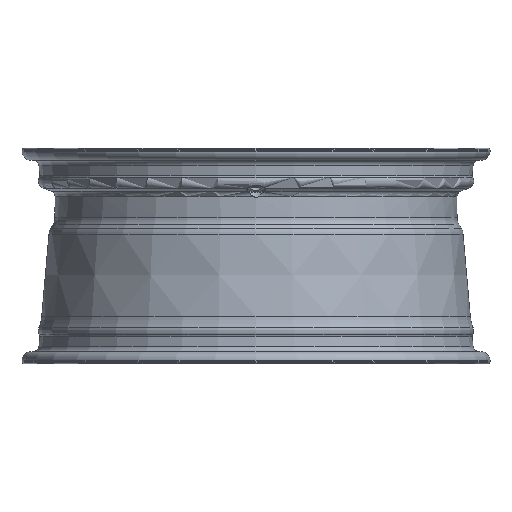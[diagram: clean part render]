
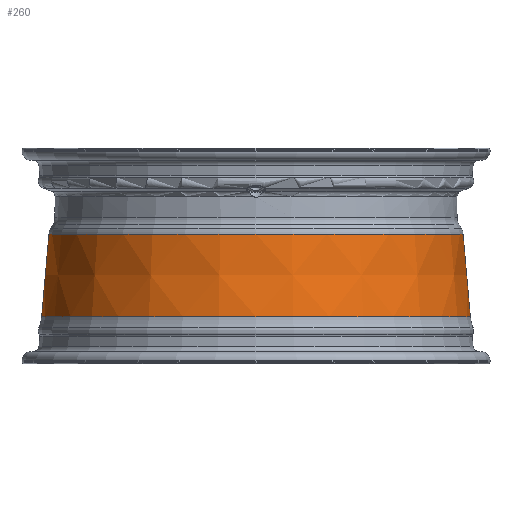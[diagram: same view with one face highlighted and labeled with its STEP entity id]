
A CAD part, front view. The second image highlights one B-rep face of the part: STEP entity #260.
In plain terms, the highlighted conical face has half-angle 5 degrees and reference radius 223.748 mm.
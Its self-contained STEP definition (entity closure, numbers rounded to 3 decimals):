
#260=ADVANCED_FACE('',(#1700,#1702),#1704,.T.);
#1700=FACE_BOUND('',#1701,.T.);
#1701=EDGE_LOOP('',(#3487,#3488));
#1702=FACE_BOUND('',#1703,.T.);
#1703=EDGE_LOOP('',(#3489,#3490));
#1704=CONICAL_SURFACE('',#1705,223.748,0.087);
#1705=AXIS2_PLACEMENT_3D('',#1706,#1707,#1708);
#1706=CARTESIAN_POINT('',(0.,0.,-20.511));
#1707=DIRECTION('',(0.,0.,-1.));
#1708=DIRECTION('',(-1.,0.,0.));
#3487=ORIENTED_EDGE('',*,*,#4252,.F.);
#3488=ORIENTED_EDGE('',*,*,#4251,.F.);
#3489=ORIENTED_EDGE('',*,*,#4253,.T.);
#3490=ORIENTED_EDGE('',*,*,#4254,.T.);
#4251=EDGE_CURVE('',#4702,#4703,#4704,.T.);
#4252=EDGE_CURVE('',#4703,#4702,#4705,.T.);
#4253=EDGE_CURVE('',#4706,#4707,#4708,.T.);
#4254=EDGE_CURVE('',#4707,#4706,#4709,.T.);
#4702=VERTEX_POINT('',#5579);
#4703=VERTEX_POINT('',#5580);
#4704=CIRCLE('',#5581,227.582);
#4705=CIRCLE('',#5585,227.582);
#4706=VERTEX_POINT('',#5589);
#4707=VERTEX_POINT('',#5590);
#4708=CIRCLE('',#5591,219.913);
#4709=CIRCLE('',#5595,219.913);
#5579=CARTESIAN_POINT('',(227.582,0.,-64.339));
#5580=CARTESIAN_POINT('',(-227.582,0.,-64.339));
#5581=AXIS2_PLACEMENT_3D('',#5582,#5583,#5584);
#5582=CARTESIAN_POINT('',(0.,0.,-64.339));
#5583=DIRECTION('',(0.,0.,-1.));
#5584=DIRECTION('',(1.,0.,0.));
#5585=AXIS2_PLACEMENT_3D('',#5586,#5587,#5588);
#5586=CARTESIAN_POINT('',(0.,0.,-64.339));
#5587=DIRECTION('',(0.,0.,-1.));
#5588=DIRECTION('',(-1.,0.,0.));
#5589=CARTESIAN_POINT('',(219.913,0.,23.317));
#5590=CARTESIAN_POINT('',(-219.913,0.,23.317));
#5591=AXIS2_PLACEMENT_3D('',#5592,#5593,#5594);
#5592=CARTESIAN_POINT('',(0.,0.,23.317));
#5593=DIRECTION('',(0.,0.,-1.));
#5594=DIRECTION('',(1.,0.,0.));
#5595=AXIS2_PLACEMENT_3D('',#5596,#5597,#5598);
#5596=CARTESIAN_POINT('',(0.,0.,23.317));
#5597=DIRECTION('',(0.,0.,-1.));
#5598=DIRECTION('',(-1.,0.,0.));
